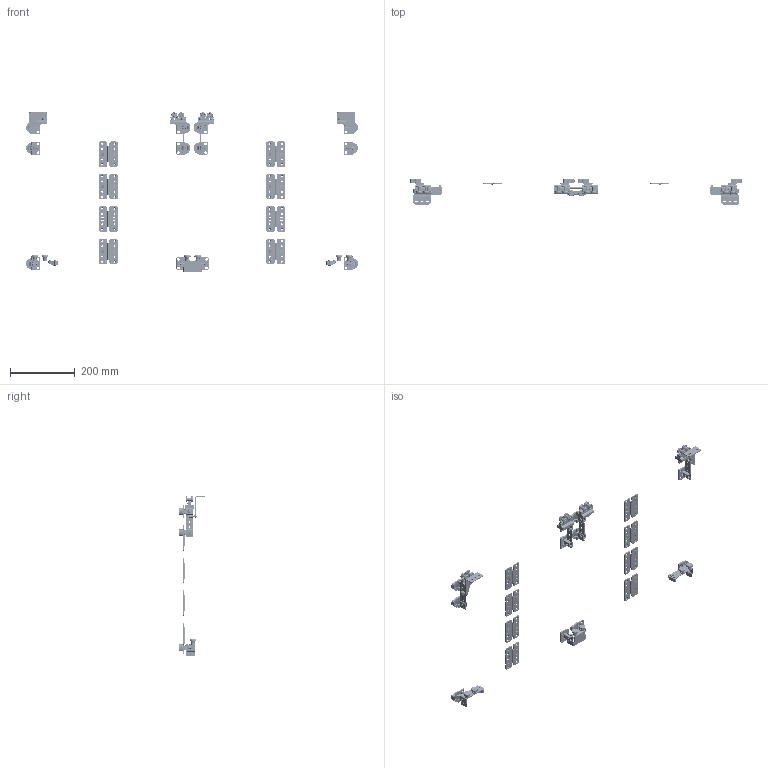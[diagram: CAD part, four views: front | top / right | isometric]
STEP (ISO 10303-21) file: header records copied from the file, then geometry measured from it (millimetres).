
FILE_DESCRIPTION( ( '' ), '1' );
FILE_NAME( 'D:/temp/hettich_stp/hettich/4_folding_sliding/4.4_folding_door/20-25kg_wing_77/20kg_w_77/70987.stp', '2013-02-26T10:23:29', ( '' ), ( '' ), ' ', ' ', ' ' );
FILE_SCHEMA( ( 'automotive_design' ) );
Length unit declared in the file: millimetre
Products named in the file (37): 1; 2; 3; 4; 5; 6; 7; 8; 9; 10; 11; 12; 13; 14; 15; 16; 17; 18; 19; 20; 21; 22; 23; 24; 25; 26; 27; 28; 29; 30; 31; 32; 33; 34; 35; 36; 37
Bounding box: 1024.88 x 77.8 x 494 mm (x, y, z)
Volume: 372880.6 mm3; surface area: 341446.4 mm2
Topology: 37 solids, 39 shells, 6346 faces, 18315 edges, 11945 vertices
Faces by surface type: plane 3694, cylinder 2108, torus 342, cone 190, sphere 12
Entity records: 413707 total; most frequent: CARTESIAN_POINT 37529, DIRECTION 36821, STYLED_ITEM 36605, PRESENTATION_STYLE_ASSIGNMENT 36605, COLOUR_RGB 36605, ORIENTED_EDGE 36554, EDGE_CURVE 18277, CURVE_STYLE 18277
